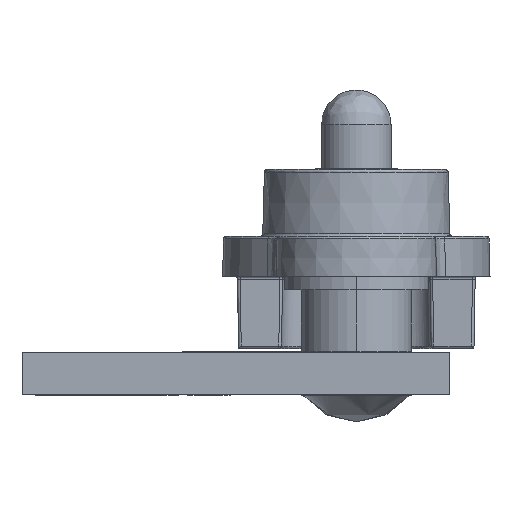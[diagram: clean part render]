
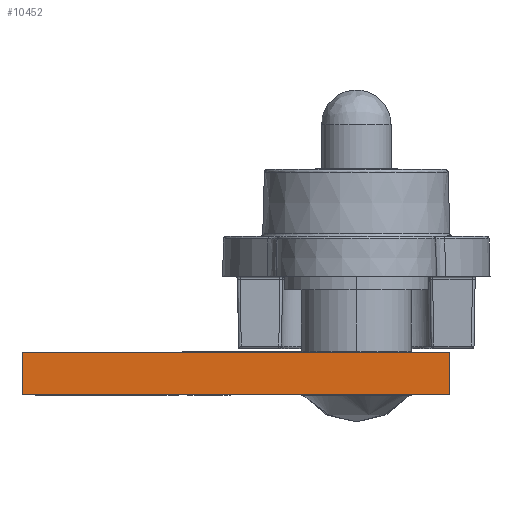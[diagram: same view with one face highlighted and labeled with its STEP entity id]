
A CAD part, left-side view. The second image highlights one B-rep face of the part: STEP entity #10452.
In plain terms, the highlighted planar face has unit normal (-1, 0, 0) as drawn and (1, 0, 0) by its records, which use the part's own axes.
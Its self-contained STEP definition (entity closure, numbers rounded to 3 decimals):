
#1238 = CARTESIAN_POINT ( 'NONE',  ( 21., 1.6, 8. ) ) ;
#1764 = PLANE ( 'NONE',  #21482 ) ;
#4218 = DIRECTION ( 'NONE',  ( 0., 1., 0. ) ) ;
#4353 = ORIENTED_EDGE ( 'NONE', *, *, #21415, .T. ) ;
#4754 = VECTOR ( 'NONE', #4218, 1000. ) ;
#5000 = LINE ( 'NONE', #5548, #29063 ) ;
#5548 = CARTESIAN_POINT ( 'NONE',  ( 21., 1.6, 8. ) ) ;
#7440 = CARTESIAN_POINT ( 'NONE',  ( 21., 0., -8. ) ) ;
#8079 = CARTESIAN_POINT ( 'NONE',  ( 21., 0., 0. ) ) ;
#9536 = CARTESIAN_POINT ( 'NONE',  ( 21., 1.6, -8. ) ) ;
#10452 = ADVANCED_FACE ( 'NONE', ( #15148 ), #1764, .F. ) ;
#10782 = ORIENTED_EDGE ( 'NONE', *, *, #15956, .F. ) ;
#11067 = LINE ( 'NONE', #8079, #27192 ) ;
#11136 = VECTOR ( 'NONE', #19808, 1000. ) ;
#11219 = EDGE_CURVE ( 'NONE', #19428, #24273, #16990, .T. ) ;
#11706 = EDGE_LOOP ( 'NONE', ( #4353, #30358, #28596, #10782 ) ) ;
#11997 = DIRECTION ( 'NONE',  ( -1., 0., 0. ) ) ;
#13023 = EDGE_CURVE ( 'NONE', #19428, #15651, #5000, .T. ) ;
#15148 = FACE_OUTER_BOUND ( 'NONE', #11706, .T. ) ;
#15651 = VERTEX_POINT ( 'NONE', #23991 ) ;
#15725 = VERTEX_POINT ( 'NONE', #7440 ) ;
#15956 = EDGE_CURVE ( 'NONE', #15725, #15651, #11067, .T. ) ;
#16990 = LINE ( 'NONE', #28440, #11136 ) ;
#18830 = DIRECTION ( 'NONE',  ( 0., 0., 1. ) ) ;
#19428 = VERTEX_POINT ( 'NONE', #21137 ) ;
#19808 = DIRECTION ( 'NONE',  ( 0., 0., -1. ) ) ;
#20205 = CARTESIAN_POINT ( 'NONE',  ( 21., 1.6, -8. ) ) ;
#21137 = CARTESIAN_POINT ( 'NONE',  ( 21., 1.6, 8. ) ) ;
#21221 = DIRECTION ( 'NONE',  ( 0., -1., 0. ) ) ;
#21415 = EDGE_CURVE ( 'NONE', #15725, #24273, #27851, .T. ) ;
#21482 = AXIS2_PLACEMENT_3D ( 'NONE', #1238, #11997, #33542 ) ;
#23991 = CARTESIAN_POINT ( 'NONE',  ( 21., 0., 8. ) ) ;
#24273 = VERTEX_POINT ( 'NONE', #20205 ) ;
#27192 = VECTOR ( 'NONE', #18830, 1000. ) ;
#27851 = LINE ( 'NONE', #9536, #4754 ) ;
#28440 = CARTESIAN_POINT ( 'NONE',  ( 21., 1.6, 8. ) ) ;
#28596 = ORIENTED_EDGE ( 'NONE', *, *, #13023, .T. ) ;
#29063 = VECTOR ( 'NONE', #21221, 1000. ) ;
#30358 = ORIENTED_EDGE ( 'NONE', *, *, #11219, .F. ) ;
#33542 = DIRECTION ( 'NONE',  ( 0., 0., 1. ) ) ;
